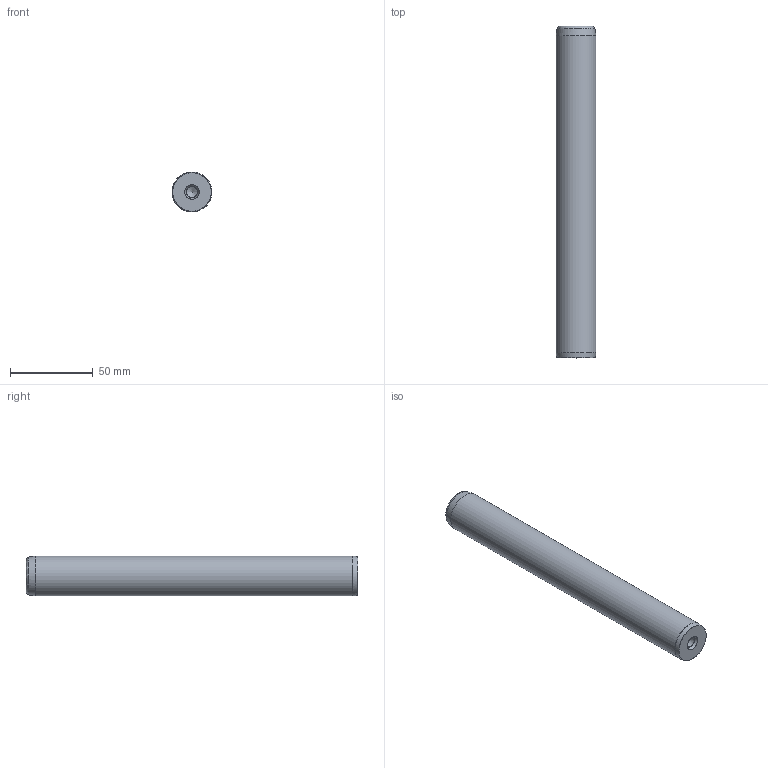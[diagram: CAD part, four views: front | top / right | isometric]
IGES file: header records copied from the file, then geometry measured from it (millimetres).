
Start section: Missler Software BP 521, 31674 Labege Cedex, France Tel   : +33 (0)5 61 00 03 00 Fax   : +33 (0)5 61 00 03 03 Email : sup.topsolid@topsolid.com
Global section: file name: D:\Cuma\D14\D14_24200.igs; native system: TopSolid v605250 Missler Software; preprocessor: IGES preprocessor v100000; date: 030120.192246; units: millimetre
Bounding box: 23.99 x 200 x 24 mm (x, y, z)
Surface area: 16964.6 mm2 (no closed solid volume)
Topology: 0 solids, 0 shells, 14 faces, 145 edges, 136 vertices
Faces by surface type: bspline 14
